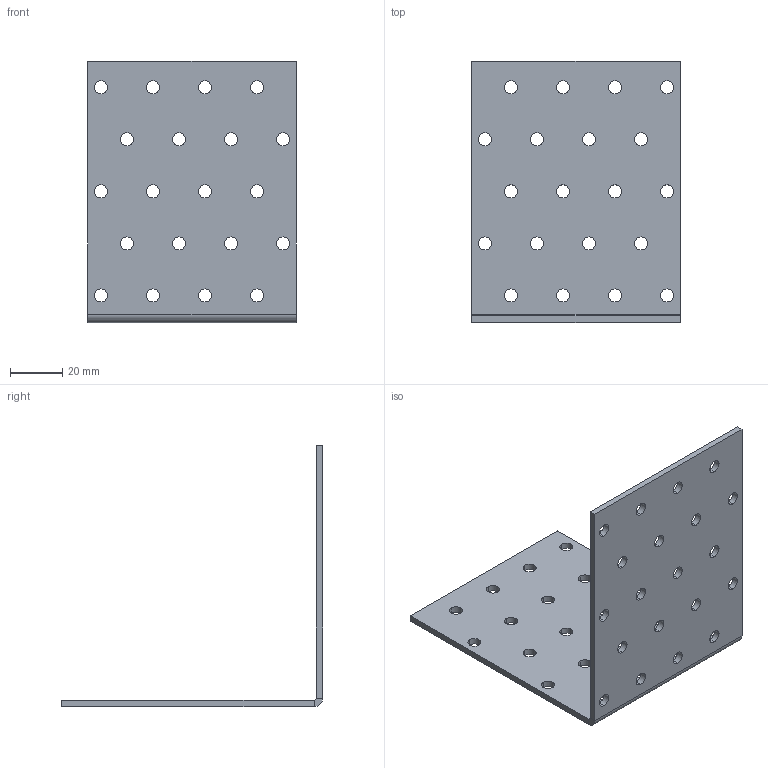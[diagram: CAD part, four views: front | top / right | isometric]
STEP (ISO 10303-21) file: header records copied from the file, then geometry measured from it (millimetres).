
FILE_DESCRIPTION (( 'STEP AP203' ), '1' );
FILE_NAME ('10511.STEP', '2020-04-20T11:18:51', ( '' ), ( '' ), 'SwSTEP 2.0', 'SolidWorks 2013', '' );
FILE_SCHEMA (( 'CONFIG_CONTROL_DESIGN' ));
Length unit declared in the file: millimetre
Products named in the file (1): 10511
Bounding box: 80 x 100.46 x 100.46 mm (x, y, z)
Volume: 37550.7 mm3; surface area: 32999.2 mm2
Topology: 1 solids, 1 shells, 92 faces, 266 edges, 176 vertices
Faces by surface type: cylinder 82, plane 10
Entity records: 3359 total; most frequent: DIRECTION 616, CARTESIAN_POINT 535, ORIENTED_EDGE 532, EDGE_CURVE 266, AXIS2_PLACEMENT_3D 257, VERTEX_POINT 176, EDGE_LOOP 172, CIRCLE 164
